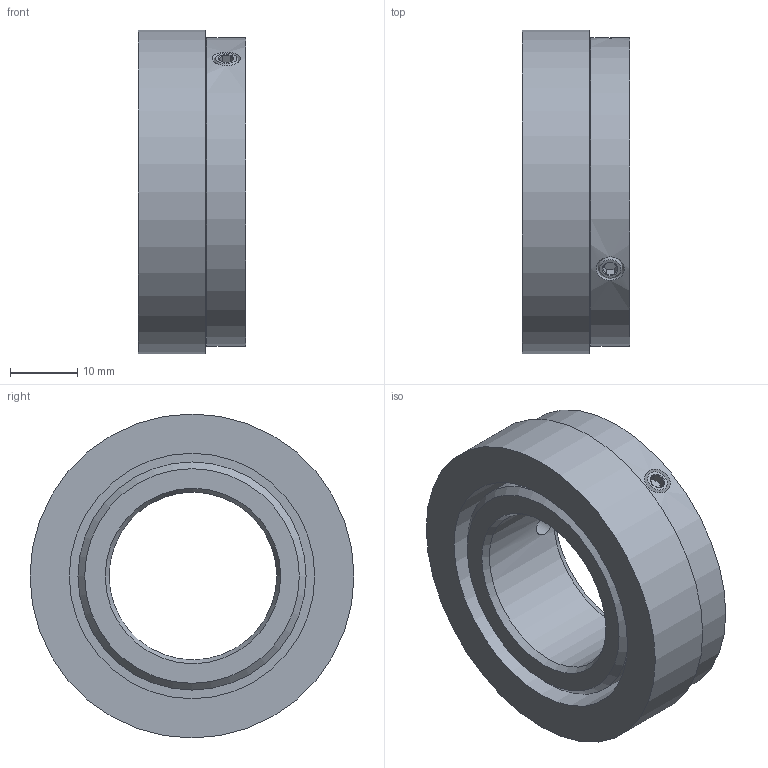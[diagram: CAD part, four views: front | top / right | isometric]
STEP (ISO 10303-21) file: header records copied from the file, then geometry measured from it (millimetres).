
FILE_DESCRIPTION (( 'STEP AP203' ), '1' );
FILE_NAME ('8.RI50.048.2500.112.STEP', '2013-07-16T07:56:12', ( 'Hodot' ), ( '' ), 'SwSTEP 2.0', 'SolidWorks 2012', '' );
FILE_SCHEMA (( 'CONFIG_CONTROL_DESIGN' ));
Length unit declared in the file: millimetre
Products named in the file (1): 8.RI50.048.2500.112
Bounding box: 16 x 48.3 x 48.3 mm (x, y, z)
Volume: 18449.9 mm3; surface area: 9875.3 mm2
Topology: 4 solids, 4 shells, 54 faces, 103 edges, 59 vertices
Faces by surface type: cone 23, plane 22, cylinder 9
Full cylindrical faces by diameter (mm): 3.3 x2, 4 x2, 25 x1, 34 x1, 36.6 x1, 46 x1, 48.3 x1
Entity records: 1519 total; most frequent: CARTESIAN_POINT 479, DIRECTION 206, ORIENTED_EDGE 152, AXIS2_PLACEMENT_3D 91, EDGE_LOOP 84, EDGE_CURVE 76, FACE_OUTER_BOUND 63, ADVANCED_FACE 54
